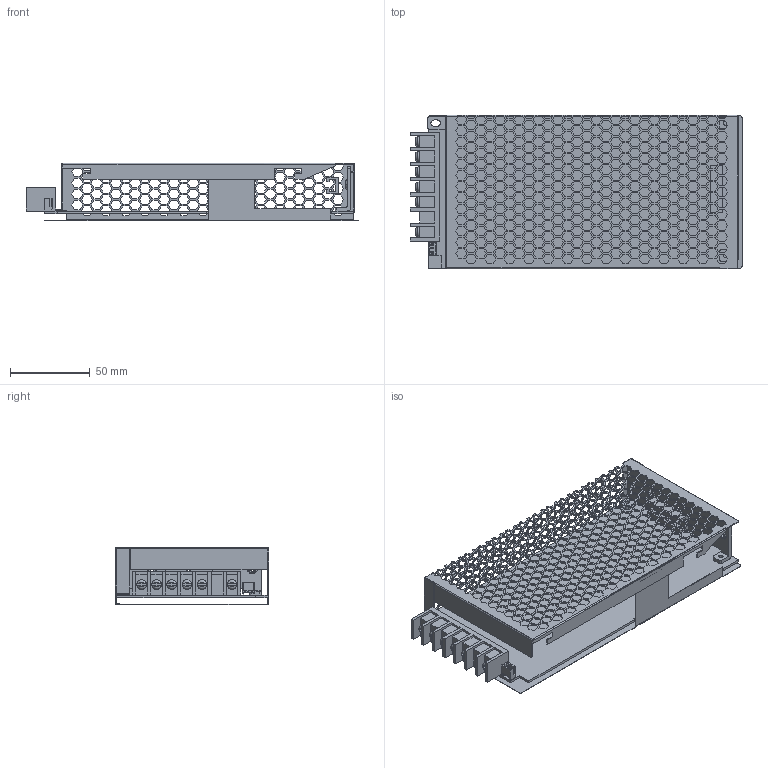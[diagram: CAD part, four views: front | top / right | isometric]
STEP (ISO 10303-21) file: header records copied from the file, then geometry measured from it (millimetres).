
FILE_DESCRIPTION(('Creo Elements/Direct Modeling STEP Export'),'2;1');
FILE_NAME('HRP-300-20250421.stp','2025-04-21T14:48:54',(''),(''),'Creo Elements/Direct Modeling STEP processor for AP214 (Solid Model)','Creo Elements/Direct Modeling 19.0G 27-Nov-2017 (C) Parametric Technology GmbH','');
FILE_SCHEMA(('AUTOMOTIVE_DESIGN { 1 0 10303 214 1 1 1 1 }'));
Length unit declared in the file: millimetre
Products named in the file (20): 1_2_1_1.PRT; 1_2_1.PRT; P2_1_1.PRT; P2.PRT; P2_2.PRT; P1.PRT; P2_1-5000.PRT; _X2_88C5914D_X0_1.ASM; 33.PRT; P2_1-1281480.PRT; P1_1.PRT; K107.PRT; TN_1_1_1.PRT; G52.ASM; SM_1.PRT; HS3.PRT; PCB.PRT; HRP-200_1.ASM; HRP-200_STP.ASM; HRP-200.stp
Assembly tree (19 placements, depth 5):
  HRP-200.stp
    HRP-200_STP.ASM
      HRP-200_1.ASM
        PCB.PRT
        HS3.PRT
        SM_1.PRT
        G52.ASM
          TN_1_1_1.PRT
        K107.PRT
        P1_1.PRT
        P2_1-1281480.PRT
        33.PRT
    _X2_88C5914D_X0_1.ASM
      P2_1-5000.PRT
      P1.PRT
      P2_2.PRT
      P2.PRT
      P2_1_1.PRT
      1_2_1.PRT
      1_2_1_1.PRT
Bounding box: 208.4 x 96.5 x 36.1 mm (x, y, z)
Volume: 62329.6 mm3; surface area: 122724.8 mm2
Topology: 13 solids, 13 shells, 3647 faces, 10755 edges, 7086 vertices
Faces by surface type: plane 3417, cylinder 146, bspline 56, torus 20, cone 8
Entity records: 150824 total; most frequent: CARTESIAN_POINT 25783, ORIENTED_EDGE 21510, DIRECTION 18001, EDGE_CURVE 10755, VECTOR 10337, LINE 10337, VERTEX_POINT 7086, EDGE_LOOP 4603
